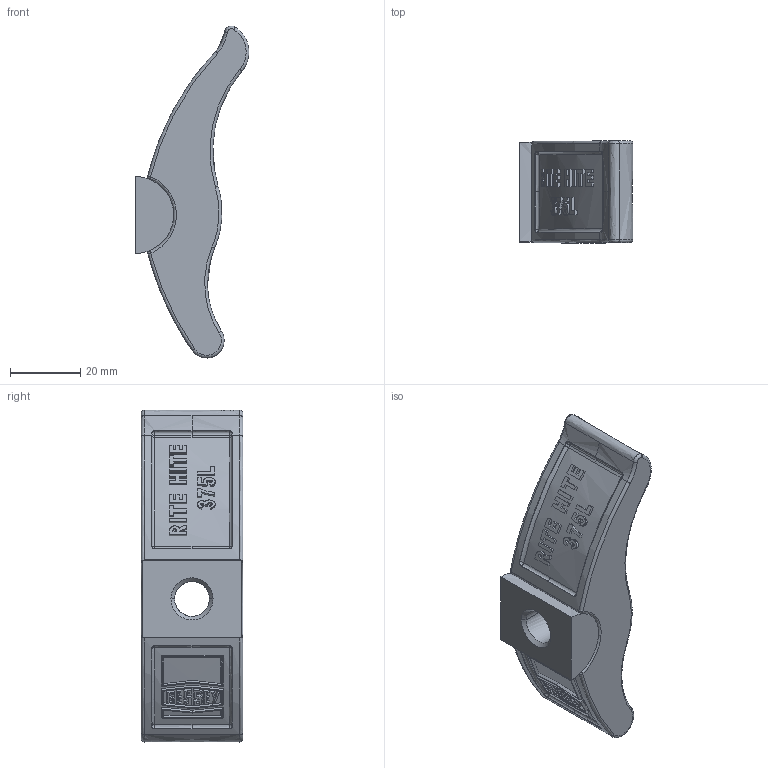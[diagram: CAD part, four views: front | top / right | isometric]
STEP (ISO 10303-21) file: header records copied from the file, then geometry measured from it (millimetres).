
FILE_DESCRIPTION( ( 'STEP AP214' ), '1' );
FILE_NAME( 'Z:/Klein/11_2012/Rite Hite_Drew/375L.stp', ' ', ( ' ' ), ( ' ' ), 'PSStep 11.0', ' ', ' ' );
FILE_SCHEMA( ( 'AUTOMOTIVE_DESIGN { 1 0 10303 214 1 1 1 1 }' ) );
Length unit declared in the file: metre
Products named in the file (2): 1; 2
Bounding box: 32.5 x 29 x 94.81 mm (x, y, z)
Volume: 4856.3 mm3; surface area: 12267.2 mm2
Topology: 1 solids, 484 shells, 507 faces, 2671 edges, 2646 vertices
Faces by surface type: bspline 507
Entity records: 40475 total; most frequent: CARTESIAN_POINT 24093, ORIENTED_EDGE 2726, EDGE_CURVE 2670, VERTEX_POINT 2648, B_SPLINE_CURVE_WITH_KNOTS 2283, EDGE_LOOP 538, FACE_BOUND 514, STYLED_ITEM 507
